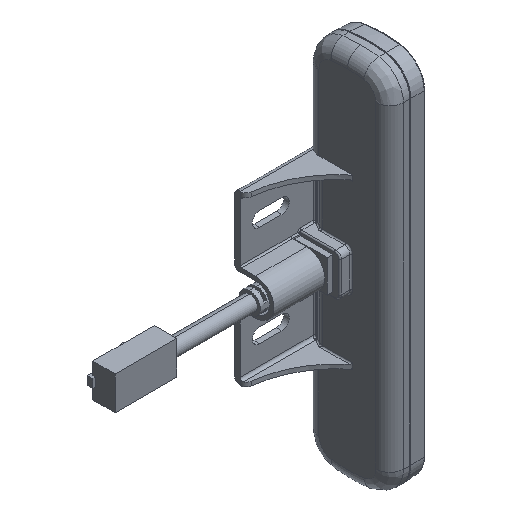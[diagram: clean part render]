
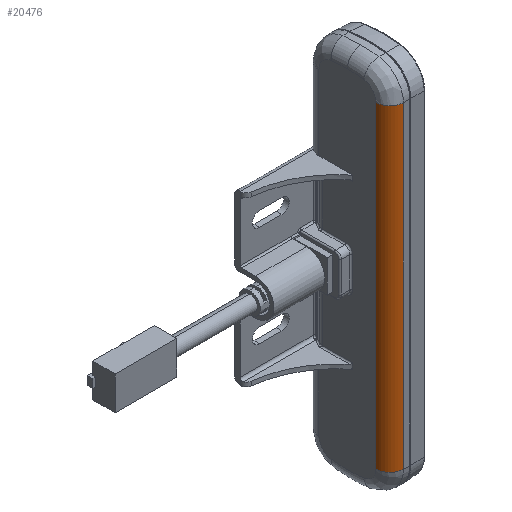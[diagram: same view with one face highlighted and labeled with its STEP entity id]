
A CAD part, isometric view. The second image highlights one B-rep face of the part: STEP entity #20476.
In plain terms, the highlighted cylindrical face has radius 5 mm (diameter 10 mm), a partial arc.
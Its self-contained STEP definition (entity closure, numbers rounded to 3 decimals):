
#9032=CARTESIAN_POINT('',(-56.648,10.172,
0.));
#9659=CARTESIAN_POINT('',(56.648,10.172,5.));
#9660=DIRECTION('',(1.,0.,0.));
#9661=DIRECTION('',(0.,0.,-1.));
#9662=AXIS2_PLACEMENT_3D('',#9659,#9660,#9661);
#9669=DIRECTION('',(-1.,0.,0.));
#9670=VECTOR('',#9669,113.296);
#9671=CARTESIAN_POINT('',(56.648,10.172,
0.));
#9672=LINE('',#9671,#9670);
#9673=DIRECTION('',(1.,0.,0.));
#9674=VECTOR('',#9673,113.296);
#9675=CARTESIAN_POINT('',(-56.648,15.169,4.826));
#9676=LINE('',#9675,#9674);
#9682=CARTESIAN_POINT('',(-56.648,10.172,5.));
#9683=DIRECTION('',(-1.,0.,0.));
#9684=DIRECTION('',(0.,0.999,-0.035));
#9685=AXIS2_PLACEMENT_3D('',#9682,#9683,#9684);
#9762=CARTESIAN_POINT('',(-56.648,15.169,4.826));
#9763=VERTEX_POINT('',#9762);
#9770=CARTESIAN_POINT('',(56.648,15.169,4.826));
#9771=VERTEX_POINT('',#9770);
#10694=VERTEX_POINT('',#9032);
#10695=CARTESIAN_POINT('',(56.648,10.172,
0.));
#10696=VERTEX_POINT('',#10695);
#20464=CARTESIAN_POINT('',(-64.544,10.172,5.));
#20465=DIRECTION('',(1.,0.,0.));
#20466=DIRECTION('',(0.,0.,-1.));
#20467=AXIS2_PLACEMENT_3D('',#20464,#20465,#20466);
#20468=CYLINDRICAL_SURFACE('',#20467,5.);
#20470=ORIENTED_EDGE('',*,*,#20469,.T.);
#20471=ORIENTED_EDGE('',*,*,#19334,.F.);
#20472=ORIENTED_EDGE('',*,*,#20456,.T.);
#20473=ORIENTED_EDGE('',*,*,#18898,.F.);
#20474=EDGE_LOOP('',(#20470,#20471,#20472,#20473));
#20475=FACE_OUTER_BOUND('',#20474,.F.);
#20476=ADVANCED_FACE('',(#20475),#20468,.T.);
#9663=CIRCLE('',#9662,5.);
#9686=CIRCLE('',#9685,5.);
#18898=EDGE_CURVE('',#9763,#9771,#9676,.T.);
#19334=EDGE_CURVE('',#10696,#10694,#9672,.T.);
#20456=EDGE_CURVE('',#10696,#9771,#9663,.T.);
#20469=EDGE_CURVE('',#9763,#10694,#9686,.T.);
